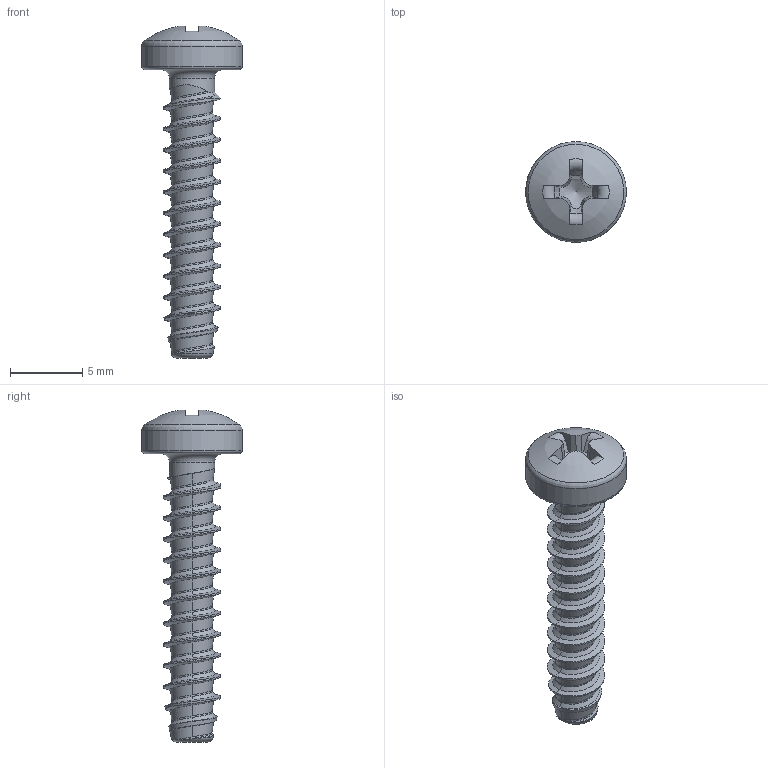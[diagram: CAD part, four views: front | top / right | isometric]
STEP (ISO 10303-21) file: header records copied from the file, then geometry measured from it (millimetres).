
FILE_DESCRIPTION(/* description */ (''),/* implementation_level */ '2;1');
FILE_NAME(/* name */ 'KN6032-STSplus-40x20-H2.step',/* time_stamp */ '2017-10-10T15:11:46+02:00',/* author */ (''),/* organization */ (''),/* preprocessor_version */ 'ST-DEVELOPER v16',/* originating_system */ 'SIEMENS PLM Software NX 10.0',/* authorisation */ '');
FILE_SCHEMA (('AUTOMOTIVE_DESIGN { 1 0 10303 214 3 1 1 1 }'));
Length unit declared in the file: millimetre
Products named in the file (1): KN6032-STSplus-40x20-H2
Bounding box: 7 x 7 x 23.03 mm (x, y, z)
Volume: 240.9 mm3; surface area: 414.9 mm2
Topology: 1 solids, 1 shells, 106 faces, 258 edges, 154 vertices
Faces by surface type: bspline 69, plane 18, torus 8, cone 7, cylinder 3, sphere 1
Full cylindrical faces by diameter (mm): 3.13 x1, 7 x1
Entity records: 6668 total; most frequent: CARTESIAN_POINT 4688, ORIENTED_EDGE 488, EDGE_CURVE 244, DIRECTION 231, VERTEX_POINT 149, B_SPLINE_CURVE_WITH_KNOTS 128, EDGE_LOOP 114, ADVANCED_FACE 106
